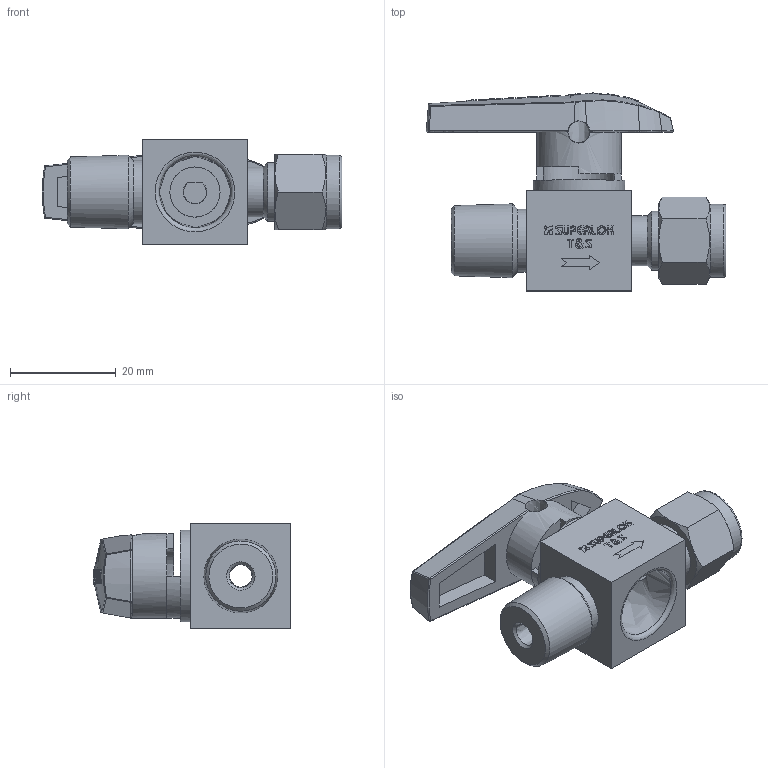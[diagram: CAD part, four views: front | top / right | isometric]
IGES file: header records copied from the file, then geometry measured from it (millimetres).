
Global section: file name: SPV131-M4N-S4; native system: Autodesk Inventor 2016; preprocessor: unknown; author: DESIGNPC2; date: 20160502.091330; units: millimetre
Bounding box: 56.82 x 37.5 x 20.01 mm (x, y, z)
Volume: 12952.6 mm3; surface area: 7838 mm2
Topology: 2 solids, 2 shells, 422 faces, 1120 edges, 742 vertices
Faces by surface type: bspline 422
